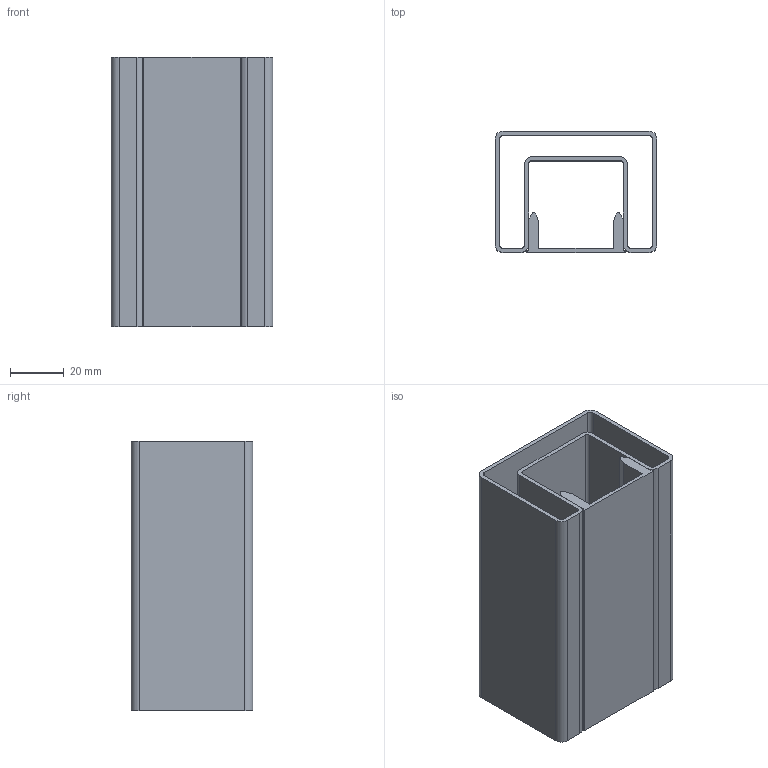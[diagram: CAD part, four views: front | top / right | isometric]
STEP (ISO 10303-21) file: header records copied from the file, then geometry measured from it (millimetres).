
FILE_DESCRIPTION (( 'STEP AP214' ), '1' );
FILE_NAME ('Ronny Basic.STEP', '2021-09-23T13:33:58', ( '' ), ( '' ), 'SwSTEP 2.0', 'SolidWorks 2010', '' );
FILE_SCHEMA (( 'AUTOMOTIVE_DESIGN' ));
Length unit declared in the file: millimetre
Products named in the file (3): Profil-Ronny-60-45; Abdeckung-Nina-Ronny; Ronny Basic
Assembly tree (2 placements, depth 2):
  Ronny Basic
    Abdeckung-Nina-Ronny
    Profil-Ronny-60-45
Bounding box: 60 x 45 x 100 mm (x, y, z)
Volume: 54088 mm3; surface area: 66354.5 mm2
Topology: 2 solids, 2 shells, 57 faces, 159 edges, 106 vertices
Faces by surface type: plane 32, cylinder 25
Entity records: 2210 total; most frequent: DIRECTION 333, CARTESIAN_POINT 327, ORIENTED_EDGE 318, EDGE_CURVE 159, AXIS2_PLACEMENT_3D 112, LINE 109, VECTOR 109, VERTEX_POINT 106
